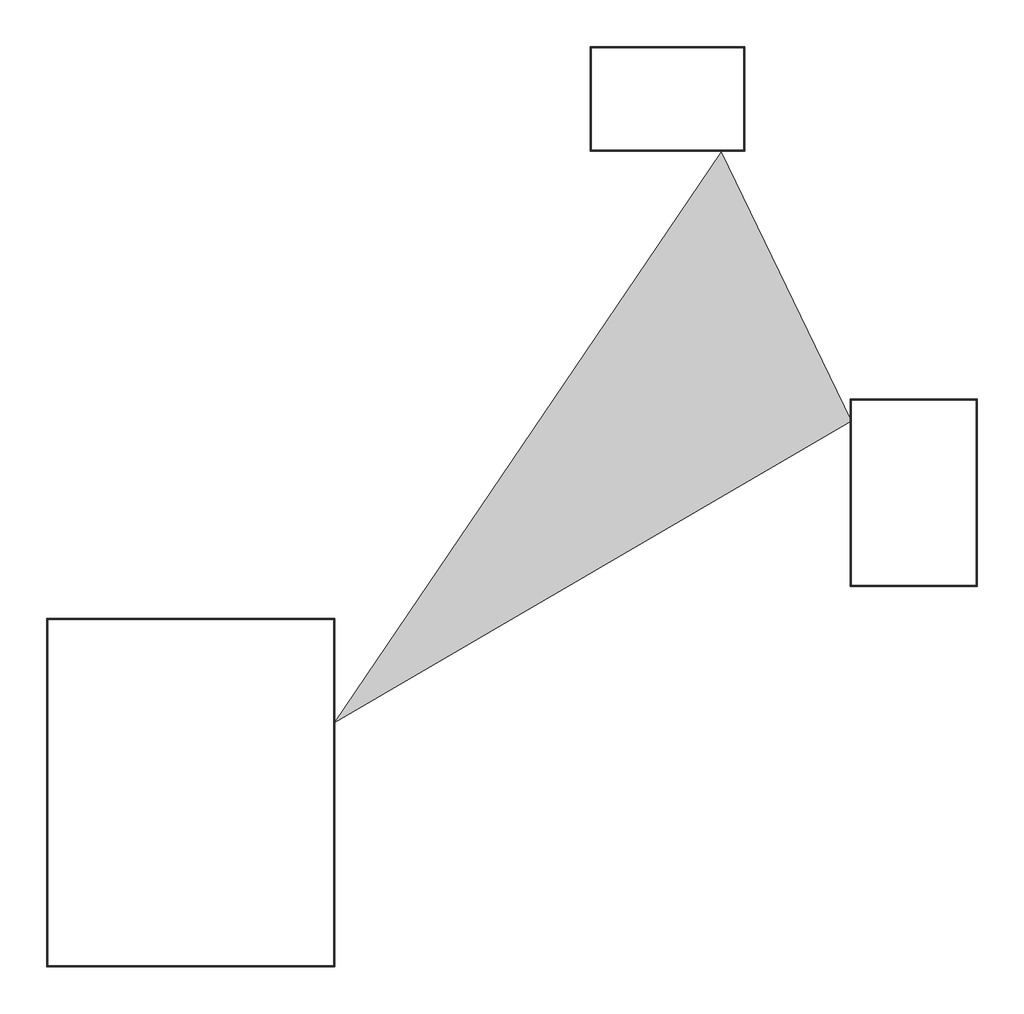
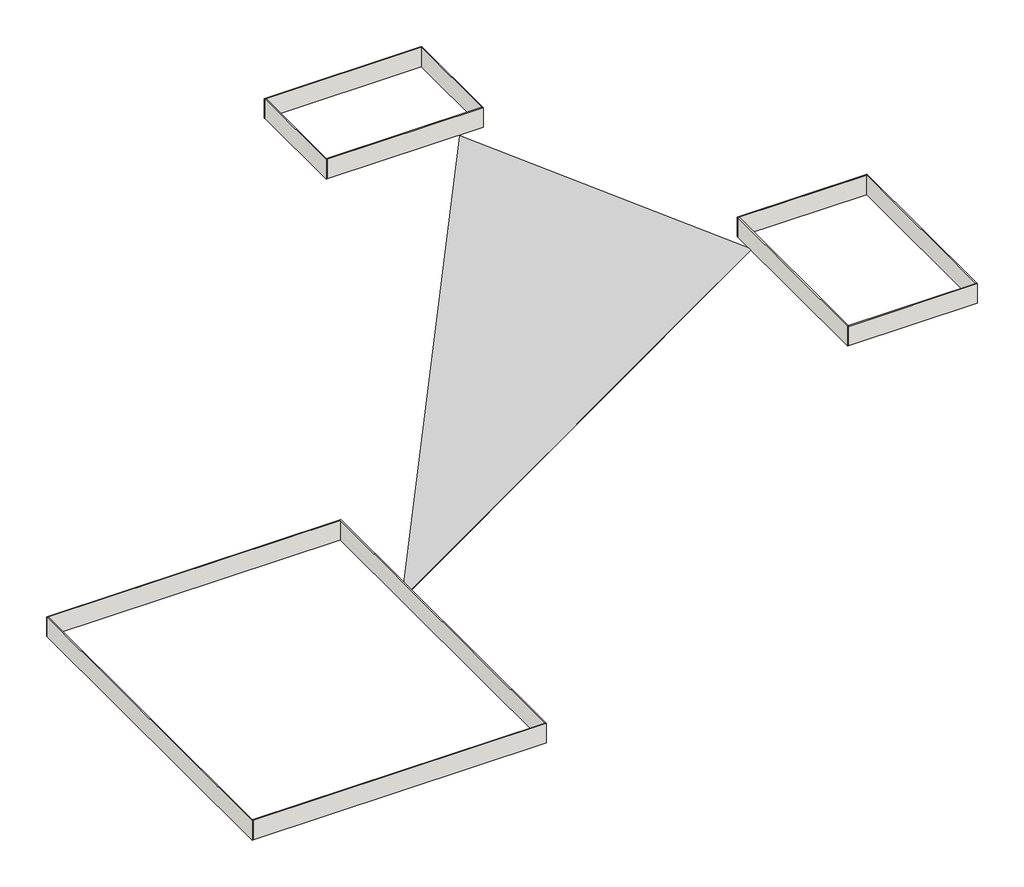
# One storey: 12 walls, 1 proxy.
"""IFC4 building model written with IfcOpenShell, lengths in millimetres."""

from ifc_helpers import new_model, si_unit, origin, place, context, project, spatial, faceted_brep, transform, mapped, element, save
from components import specialty_equipment_8b872ac2

model = new_model("IFC4")

# Units and contexts
model_context = context("Model", 3, world=origin())
ifc_project = project(units=[si_unit("LENGTHUNIT", "METRE", prefix="MILLI")], contexts=[model_context])

# Site, building, storey
site = spatial("IfcSite", under=ifc_project)
building = spatial("IfcBuilding", under=site)
storey = spatial("IfcBuildingStorey", under=building, Name="Уровень 1", Elevation=0.0)

# Proxy
placement = place(None, origin())
specialty_equipment_shape = specialty_equipment_8b872ac2(model_context)
element("IfcBuildingElementProxy", 1, Name="инсографик(типовая) : инсографик(типовая)", ObjectType="инсографик(типовая) : инсографик(типовая)", at=placement, inside=storey, context=model_context, shape_type="MappedRepresentation", body=[
    mapped(specialty_equipment_shape, transform((84807.8926343, 115170.2667529, 0.0), x_axis=(1.0, 0.0, 0.0), y_axis=(0.0, 1.0, 0.0), z_axis=(0.0, 0.0, 1.0))),
])

# Walls
element("IfcWall", 2, ObjectType="Стена 1", at=placement, inside=storey, context=model_context, shape_type="Brep", body=[
    faceted_brep([(116812.272667, 135687.9839383, 0.0), (117012.272667, 135687.9839383, 0.0), (147197.8468162, 135687.9839383, 0.0), (147197.8468162, 135687.9839383, 4000.0), (117012.272667, 135687.9839383, 4000.0), (116812.272667, 135687.9839383, 4000.0), (116812.272667, 135887.9839383, 0.0), (116812.272667, 135887.9839383, 4000.0), (147197.8468162, 135887.9839383, 4000.0), (147197.8468162, 135887.9839383, 0.0)], [[[0, 1, 2, 3, 4, 5]], [[6, 7, 8, 9]], [[2, 1, 0, 6, 9]], [[5, 4, 3, 8, 7]], [[0, 5, 7, 6]], [[3, 2, 9, 8]]]),
])
element("IfcWall", 3, ObjectType="Стена 1", at=placement, inside=storey, context=model_context, shape_type="Brep", body=[
    faceted_brep([(117012.272667, 115164.2816537, 0.0), (117012.272667, 115364.2816537, 0.0), (117012.272667, 135687.9839383, 0.0), (117012.272667, 135687.9839383, 4000.0), (117012.272667, 115364.2816537, 4000.0), (117012.272667, 115164.2816537, 4000.0), (116812.272667, 115164.2816537, 0.0), (116812.272667, 115164.2816537, 4000.0), (116812.272667, 135687.9839383, 4000.0), (116812.272667, 135687.9839383, 0.0)], [[[0, 1, 2, 3, 4, 5]], [[6, 7, 8, 9]], [[2, 1, 0, 6, 9]], [[5, 4, 3, 8, 7]], [[0, 5, 7, 6]], [[3, 2, 9, 8]]]),
])
element("IfcWall", 4, ObjectType="Стена 1", at=placement, inside=storey, context=model_context, shape_type="Brep", body=[
    faceted_brep([(147397.8468162, 115364.2816537, 0.0), (147197.8468162, 115364.2816537, 0.0), (117012.272667, 115364.2816537, 0.0), (117012.272667, 115364.2816537, 4000.0), (147197.8468162, 115364.2816537, 4000.0), (147397.8468162, 115364.2816537, 4000.0), (147397.8468162, 115164.2816537, 0.0), (147397.8468162, 115164.2816537, 4000.0), (117012.272667, 115164.2816537, 4000.0), (117012.272667, 115164.2816537, 0.0)], [[[0, 1, 2, 3, 4, 5]], [[6, 7, 8, 9]], [[2, 1, 0, 6, 9]], [[5, 4, 3, 8, 7]], [[0, 5, 7, 6]], [[3, 2, 9, 8]]]),
])
element("IfcWall", 5, ObjectType="Стена 1", at=placement, inside=storey, context=model_context, shape_type="Brep", body=[
    faceted_brep([(147197.8468162, 135887.9839383, 0.0), (147197.8468162, 135687.9839383, 0.0), (147197.8468162, 115364.2816537, 0.0), (147197.8468162, 115364.2816537, 4000.0), (147197.8468162, 135687.9839383, 4000.0), (147197.8468162, 135887.9839383, 4000.0), (147397.8468162, 135887.9839383, 0.0), (147397.8468162, 135887.9839383, 4000.0), (147397.8468162, 115364.2816537, 4000.0), (147397.8468162, 115364.2816537, 0.0)], [[[0, 1, 2, 3, 4, 5]], [[6, 7, 8, 9]], [[2, 1, 0, 6, 9]], [[5, 4, 3, 8, 7]], [[0, 5, 7, 6]], [[3, 2, 9, 8]]]),
])
element("IfcWall", 6, ObjectType="Стена 1", at=placement, inside=storey, context=model_context, shape_type="Brep", body=[
    faceted_brep([(168377.592586, 65745.7840733, 0.0), (168577.592586, 65745.7840733, 0.0), (193377.592586, 65745.7840733, 0.0), (193377.592586, 65745.7840733, 4000.0), (168577.592586, 65745.7840733, 4000.0), (168377.592586, 65745.7840733, 4000.0), (168377.592586, 65945.7840733, 0.0), (168377.592586, 65945.7840733, 4000.0), (193377.592586, 65945.7840733, 4000.0), (193377.592586, 65945.7840733, 0.0)], [[[0, 1, 2, 3, 4, 5]], [[6, 7, 8, 9]], [[2, 1, 0, 6, 9]], [[5, 4, 3, 8, 7]], [[0, 5, 7, 6]], [[3, 2, 9, 8]]]),
])
element("IfcWall", 7, ObjectType="Стена 1", at=placement, inside=storey, context=model_context, shape_type="Brep", body=[
    faceted_brep([(168577.592586, 28745.7840733, 0.0), (168577.592586, 28945.7840733, 0.0), (168577.592586, 65745.7840733, 0.0), (168577.592586, 65745.7840733, 4000.0), (168577.592586, 28945.7840733, 4000.0), (168577.592586, 28745.7840733, 4000.0), (168377.592586, 28745.7840733, 0.0), (168377.592586, 28745.7840733, 4000.0), (168377.592586, 65745.7840733, 4000.0), (168377.592586, 65745.7840733, 0.0)], [[[0, 1, 2, 3, 4, 5]], [[6, 7, 8, 9]], [[2, 1, 0, 6, 9]], [[5, 4, 3, 8, 7]], [[0, 5, 7, 6]], [[3, 2, 9, 8]]]),
])
element("IfcWall", 8, ObjectType="Стена 1", at=placement, inside=storey, context=model_context, shape_type="Brep", body=[
    faceted_brep([(193577.592586, 28945.7840733, 0.0), (193377.592586, 28945.7840733, 0.0), (168577.592586, 28945.7840733, 0.0), (168577.592586, 28945.7840733, 4000.0), (193377.592586, 28945.7840733, 4000.0), (193577.592586, 28945.7840733, 4000.0), (193577.592586, 28745.7840733, 0.0), (193577.592586, 28745.7840733, 4000.0), (168577.592586, 28745.7840733, 4000.0), (168577.592586, 28745.7840733, 0.0)], [[[0, 1, 2, 3, 4, 5]], [[6, 7, 8, 9]], [[2, 1, 0, 6, 9]], [[5, 4, 3, 8, 7]], [[0, 5, 7, 6]], [[3, 2, 9, 8]]]),
])
element("IfcWall", 9, ObjectType="Стена 1", at=placement, inside=storey, context=model_context, shape_type="Brep", body=[
    faceted_brep([(193377.592586, 65945.7840733, 0.0), (193377.592586, 65745.7840733, 0.0), (193377.592586, 28945.7840733, 0.0), (193377.592586, 28945.7840733, 4000.0), (193377.592586, 65745.7840733, 4000.0), (193377.592586, 65945.7840733, 4000.0), (193577.592586, 65945.7840733, 0.0), (193577.592586, 65945.7840733, 4000.0), (193577.592586, 28945.7840733, 4000.0), (193577.592586, 28945.7840733, 0.0)], [[[0, 1, 2, 3, 4, 5]], [[6, 7, 8, 9]], [[2, 1, 0, 6, 9]], [[5, 4, 3, 8, 7]], [[0, 5, 7, 6]], [[3, 2, 9, 8]]]),
])
element("IfcWall", 10, ObjectType="Стена 1", at=placement, inside=storey, context=model_context, shape_type="Brep", body=[
    faceted_brep([(8918.1446519, 22209.3009236, 0.0), (9118.1446519, 22209.3009236, 0.0), (65918.1446519, 22209.3009236, 0.0), (65918.1446519, 22209.3009236, 4000.0), (9118.1446519, 22209.3009236, 4000.0), (8918.1446519, 22209.3009236, 4000.0), (8918.1446519, 22409.3009236, 0.0), (8918.1446519, 22409.3009236, 4000.0), (65918.1446519, 22409.3009236, 4000.0), (65918.1446519, 22409.3009236, 0.0)], [[[0, 1, 2, 3, 4, 5]], [[6, 7, 8, 9]], [[2, 1, 0, 6, 9]], [[5, 4, 3, 8, 7]], [[0, 5, 7, 6]], [[3, 2, 9, 8]]]),
])
element("IfcWall", 11, ObjectType="Стена 1", at=placement, inside=storey, context=model_context, shape_type="Brep", body=[
    faceted_brep([(9118.1446519, -46790.6990764, 0.0), (9118.1446519, -46590.6990764, 0.0), (9118.1446519, 22209.3009236, 0.0), (9118.1446519, 22209.3009236, 4000.0), (9118.1446519, -46590.6990764, 4000.0), (9118.1446519, -46790.6990764, 4000.0), (8918.1446519, -46790.6990764, 0.0), (8918.1446519, -46790.6990764, 4000.0), (8918.1446519, 22209.3009236, 4000.0), (8918.1446519, 22209.3009236, 0.0)], [[[0, 1, 2, 3, 4, 5]], [[6, 7, 8, 9]], [[2, 1, 0, 6, 9]], [[5, 4, 3, 8, 7]], [[0, 5, 7, 6]], [[3, 2, 9, 8]]]),
])
element("IfcWall", 12, ObjectType="Стена 1", at=placement, inside=storey, context=model_context, shape_type="Brep", body=[
    faceted_brep([(66118.1446519, -46590.6990764, 0.0), (65918.1446519, -46590.6990764, 0.0), (9118.1446519, -46590.6990764, 0.0), (9118.1446519, -46590.6990764, 4000.0), (65918.1446519, -46590.6990764, 4000.0), (66118.1446519, -46590.6990764, 4000.0), (66118.1446519, -46790.6990764, 0.0), (66118.1446519, -46790.6990764, 4000.0), (9118.1446519, -46790.6990764, 4000.0), (9118.1446519, -46790.6990764, 0.0)], [[[0, 1, 2, 3, 4, 5]], [[6, 7, 8, 9]], [[2, 1, 0, 6, 9]], [[5, 4, 3, 8, 7]], [[0, 5, 7, 6]], [[3, 2, 9, 8]]]),
])
element("IfcWall", 13, ObjectType="Стена 1", at=placement, inside=storey, context=model_context, shape_type="Brep", body=[
    faceted_brep([(65918.1446519, 22409.3009236, 0.0), (65918.1446519, 22209.3009236, 0.0), (65918.1446519, -46590.6990764, 0.0), (65918.1446519, -46590.6990764, 4000.0), (65918.1446519, 22209.3009236, 4000.0), (65918.1446519, 22409.3009236, 4000.0), (66118.1446519, 22409.3009236, 0.0), (66118.1446519, 22409.3009236, 4000.0), (66118.1446519, -46590.6990764, 4000.0), (66118.1446519, -46590.6990764, 0.0)], [[[0, 1, 2, 3, 4, 5]], [[6, 7, 8, 9]], [[2, 1, 0, 6, 9]], [[5, 4, 3, 8, 7]], [[0, 5, 7, 6]], [[3, 2, 9, 8]]]),
])

save(model, "model.ifc")
